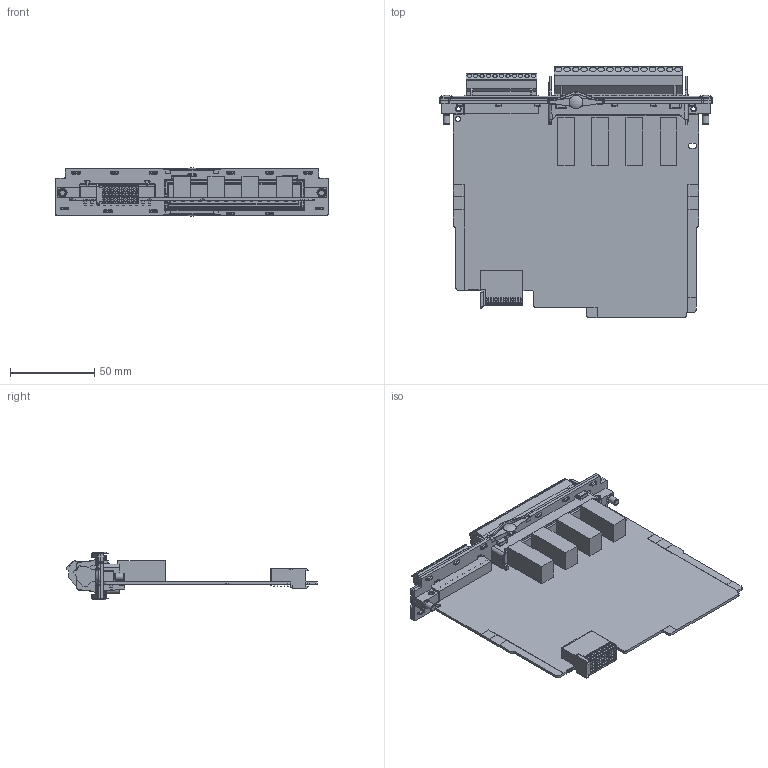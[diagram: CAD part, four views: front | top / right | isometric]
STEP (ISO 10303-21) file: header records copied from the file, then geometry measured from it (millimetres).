
FILE_DESCRIPTION(/* description */ (''),/* implementation_level */ '2;1');
FILE_NAME(/* name */ 'IOM3.1_3D CAD_20250228.stp',/* time_stamp */ '2025-02-28T10:00:52+01:00',/* author */ ('DSP'),/* organization */ (''),/* preprocessor_version */ 'ST-DEVELOPER v19.2',/* originating_system */ 'Autodesk Inventor 2023',/* authorisation */ '');
FILE_SCHEMA (('AUTOMOTIVE_DESIGN { 1 0 10303 214 3 1 1 }'));
Products named in the file (1): IOM3.1_3D CAD_SMPL_20250228
Bounding box: 161.99 x 149.2 x 28.71 mm (x, y, z)
Volume: 94205.2 mm3; surface area: 72196.9 mm2
Topology: 1 solids, 1 shells, 3338 faces, 8387 edges, 5117 vertices
Faces by surface type: plane 1908, cylinder 848, bspline 306, cone 135, torus 106, sphere 35
Full cylindrical faces by diameter (mm): 0.8 x8, 1.6 x15, 1.7 x11, 2.459 x2, 2.5 x2, 2.8 x11, 3 x2, 3.05 x1, 3.242 x2, 4 x17, 4.4 x2, 5.5 x2, 8 x2
Entity records: 112253 total; most frequent: CARTESIAN_POINT 30088, ORIENTED_EDGE 16542, DIRECTION 15907, EDGE_CURVE 8271, LINE 5601, VECTOR 5601, AXIS2_PLACEMENT_3D 5153, VERTEX_POINT 5117
